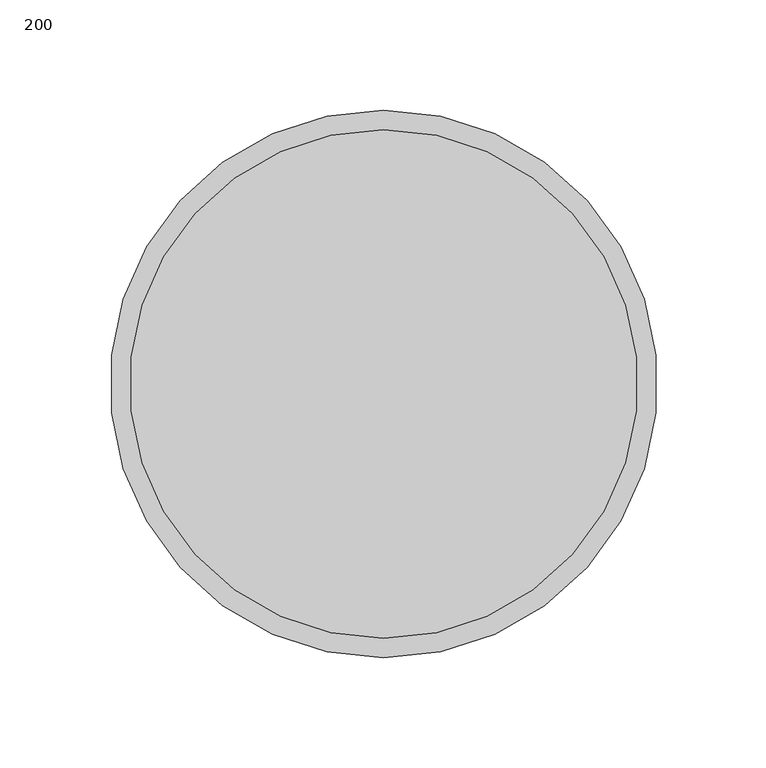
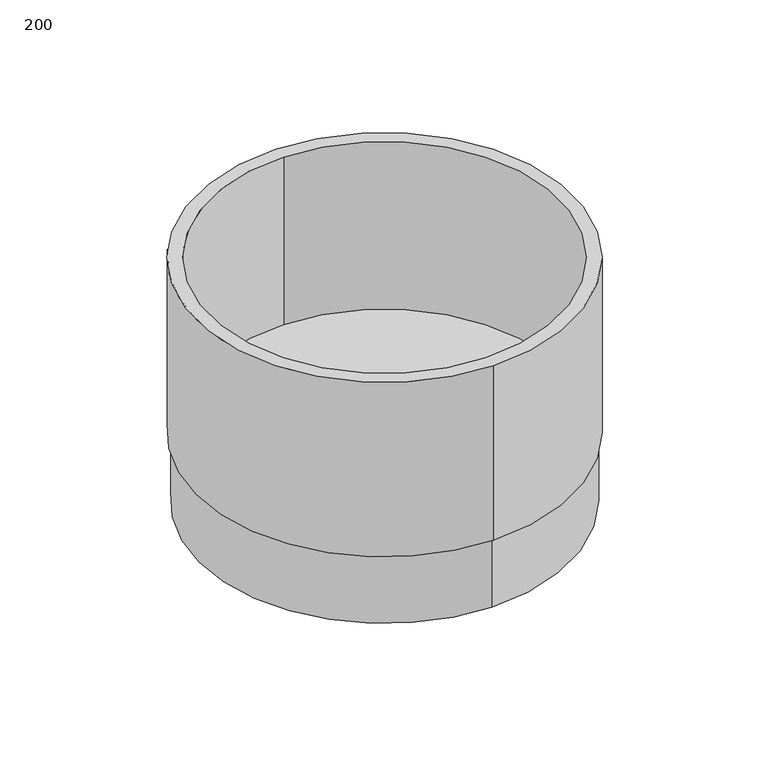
"""IFC4 building model written with IfcOpenShell, lengths in millimetres: pipe fitting geometry, Pipelife - Pragma +ID - Mufa rotacyjna kanalizacyjna : 200."""

from ifc_helpers import new_model, si_unit, point, frame, origin, origin_2d, place, context, project, spatial, polyline, circle_curve, trimmed, segment, composite_curve, outline, extrude, source, transform, mapped, element, save
from ifc_brep_helpers import plane_surface, cylinder_surface, revolved_surface, advanced_brep


def pipe_fitting_200_01b674ff(model_context):
    return source(origin(), model_context, "Body", "SolidModel", [
        extrude(outline(composite_curve([segment(trimmed(circle_curve(origin_2d(), 122.5), [point((0.0, 122.5))], [point((0.0, -122.5))], False, "CARTESIAN"), True, "CONTINUOUS"), segment(trimmed(circle_curve(origin_2d(), 122.5), [point((0.0, -122.5))], [point((0.0, 122.5))], False, "CARTESIAN"), True, "CONTINUOUS")], self_intersect=False), holes=[composite_curve([segment(trimmed(circle_curve(origin_2d(), 112.5), [point((0.0, 112.5))], [point((0.0, -112.5))], True, "CARTESIAN"), True, "CONTINUOUS"), segment(trimmed(circle_curve(origin_2d(), 112.5), [point((0.0, -112.5))], [point((0.0, 112.5))], True, "CARTESIAN"), True, "CONTINUOUS")], self_intersect=False)]), frame((0.0, 0.0, -170.0), z_axis=(0.0, 0.0, 1.0), x_axis=(1.0, 0.0, 0.0)), (0.0, 0.0, 1.0), 48.0),
        advanced_brep(
        [(0.0, 124.5, 0.0), (0.0, -124.5, 0.0), (0.0, -115.5, 0.0), (0.0, 115.5, 0.0), (0.0, 124.5, -122.0), (0.0, -124.5, -122.0), (0.0, 115.5, -117.0), (0.0, -115.5, -117.0)],
        [
            (0, 1, circle_curve(frame((0.0, 0.0, 0.0), z_axis=(0.0, 0.0, 1.0), x_axis=(0.0, -1.0, 0.0)), 124.5)),
            (1, 0, circle_curve(frame((0.0, 0.0, 0.0), z_axis=(0.0, 0.0, 1.0), x_axis=(0.0, -1.0, 0.0)), 124.5)),
            (2, 3, circle_curve(frame((0.0, 0.0, 0.0), z_axis=(0.0, 0.0, -1.0), x_axis=(0.0, -1.0, 0.0)), 115.5)),
            (3, 2, circle_curve(frame((0.0, 0.0, 0.0), z_axis=(0.0, 0.0, -1.0), x_axis=(0.0, -1.0, 0.0)), 115.5)),
            (4, 5, circle_curve(frame((0.0, 0.0, -122.0), z_axis=(0.0, 0.0, -1.0), x_axis=(0.0, -1.0, 0.0)), 124.5)),
            (5, 4, circle_curve(frame((0.0, 0.0, -122.0), z_axis=(0.0, 0.0, -1.0), x_axis=(0.0, -1.0, 0.0)), 124.5)),
            (0, 4),
            (5, 1),
            (6, 7, circle_curve(frame((0.0, 0.0, -117.0), z_axis=(0.0, 0.0, 1.0), x_axis=(0.0, -1.0, 0.0)), 115.5)),
            (7, 6, circle_curve(frame((0.0, 0.0, -117.0), z_axis=(0.0, 0.0, 1.0), x_axis=(0.0, -1.0, 0.0)), 115.5)),
            (6, 3),
            (2, 7),
        ],
        [
            plane_surface(frame((0.0, 0.0, 0.0), z_axis=(0.0, 0.0, 1.0), x_axis=(-1.0, 0.0, 0.0))),
            plane_surface(frame((0.0, 0.0, -122.0), z_axis=(0.0, 0.0, -1.0), x_axis=(-1.0, 0.0, 0.0))),
            cylinder_surface(frame((0.0, 0.0, 0.0), z_axis=(0.0, 0.0, 1.0), x_axis=(0.0, -1.0, 0.0)), 124.5),
            plane_surface(frame((0.0, 0.0, -117.0), z_axis=(0.0, 0.0, 1.0), x_axis=(-1.0, 0.0, 0.0))),
            revolved_surface(polyline([(0.0, -115.5, 0.0), (0.0, -115.5, -117.0)]), (0.0, 0.0, 0.0), (0.0, 0.0, 1.0)),
        ],
        [
            (0, [[1, 2], [3, 4]]),
            (1, [[5, 6]]),
            (2, [[-1, 7, -6, 8]]),
            (2, [[-2, -8, -5, -7]]),
            (3, [[9, 10]]),
            (4, [[-9, 11, -3, 12]]),
            (4, [[-10, -12, -4, -11]]),
        ],
    ),
    ])


if __name__ == "__main__":
    model = new_model("IFC4")
    model_context = context("Model", 3, world=origin())
    ifc_project = project(units=[si_unit("LENGTHUNIT", "METRE", prefix="MILLI")], contexts=[model_context])
    site = spatial("IfcSite", under=ifc_project)
    building = spatial("IfcBuilding", under=site)
    placement = place(None, origin())
    pipe_fitting_200_shape = pipe_fitting_200_01b674ff(model_context)
    element("IfcPipeFitting", 1, ObjectType="Pipelife - Pragma +ID - Mufa rotacyjna kanalizacyjna : 200", at=placement, inside=building, context=model_context, shape_type="MappedRepresentation", body=[
        mapped(pipe_fitting_200_shape, transform((0.0, 0.0, 0.0), x_axis=(1.0, 0.0, 0.0), y_axis=(0.0, 1.0, 0.0), z_axis=(0.0, 0.0, 1.0))),
    ])
    save(model, "model.ifc")
